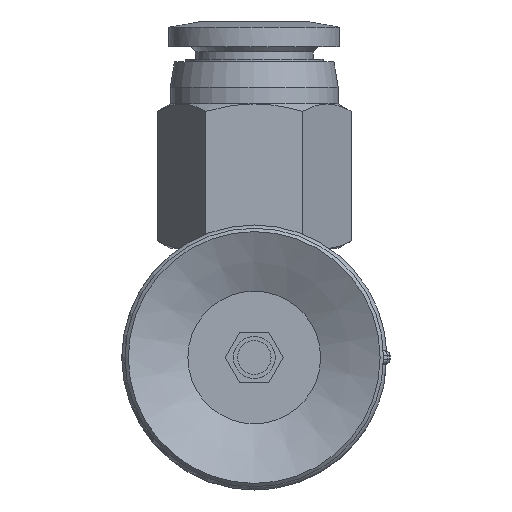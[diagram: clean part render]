
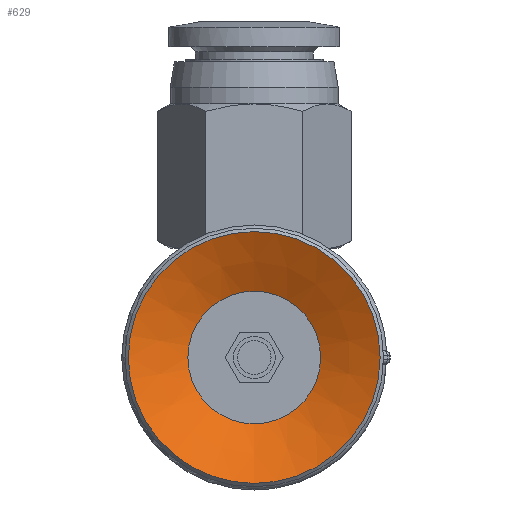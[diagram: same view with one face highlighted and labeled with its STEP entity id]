
A CAD part, front view. The second image highlights one B-rep face of the part: STEP entity #629.
In plain terms, the highlighted conical face has half-angle 64 degrees and reference radius 3.95 mm.
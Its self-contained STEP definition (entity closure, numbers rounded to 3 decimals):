
#629=ADVANCED_FACE('',(#978,#979),#980,.F.);
#978=FACE_BOUND('',#1490,.T.);
#979=FACE_OUTER_BOUND('',#1491,.T.);
#980=CONICAL_SURFACE('',#1492,3.95,1.117);
#1490=EDGE_LOOP('',(#2639));
#1491=EDGE_LOOP('',(#2640));
#1492=AXIS2_PLACEMENT_3D('',#2641,#2642,#2643);
#2639=ORIENTED_EDGE('',*,*,#3237,.F.);
#2640=ORIENTED_EDGE('',*,*,#3238,.T.);
#2641=CARTESIAN_POINT('',(0.0,-29.404,-47.168));
#2642=DIRECTION('',(-0.0,0.,1.0));
#2643=DIRECTION('',(0.0,-1.0,0.));
#3237=EDGE_CURVE('',#3701,#3701,#3702,.T.);
#3238=EDGE_CURVE('',#3703,#3703,#3704,.T.);
#3701=VERTEX_POINT('',#4617);
#3702=CIRCLE('',#4618,3.95);
#3703=VERTEX_POINT('',#4619);
#3704=CIRCLE('',#4620,7.5);
#4617=CARTESIAN_POINT('',(0.0,-33.354,-47.168));
#4618=AXIS2_PLACEMENT_3D('',#5464,#5465,#5466);
#4619=CARTESIAN_POINT('',(0.0,-36.904,-45.437));
#4620=AXIS2_PLACEMENT_3D('',#5467,#5468,#5469);
#5464=CARTESIAN_POINT('',(0.0,-29.404,-47.168));
#5465=DIRECTION('',(0.0,0.,1.0));
#5466=DIRECTION('',(0.0,-1.0,0.));
#5467=CARTESIAN_POINT('',(0.0,-29.404,-45.437));
#5468=DIRECTION('',(0.0,0.,1.0));
#5469=DIRECTION('',(0.0,-1.0,0.));
